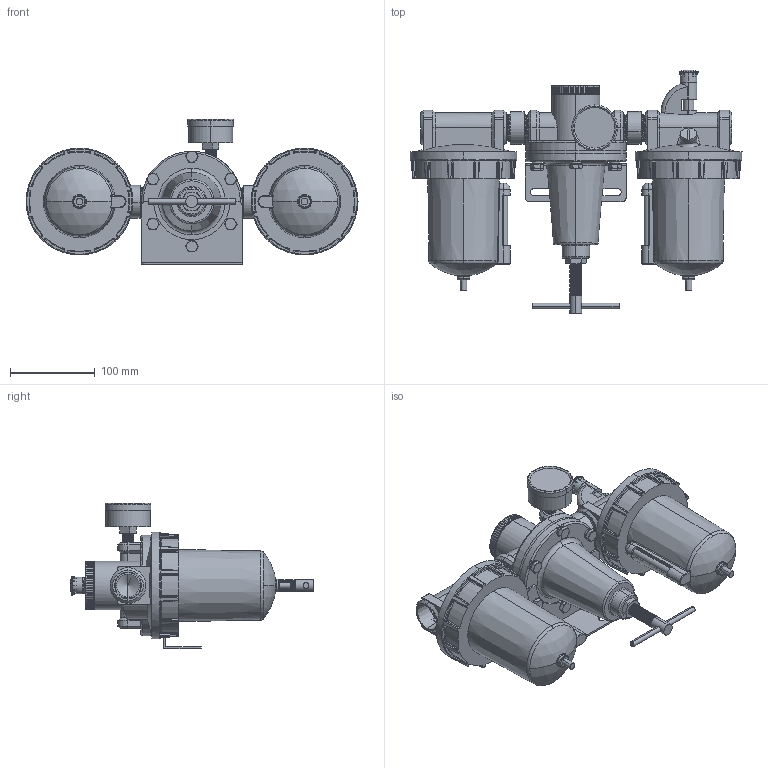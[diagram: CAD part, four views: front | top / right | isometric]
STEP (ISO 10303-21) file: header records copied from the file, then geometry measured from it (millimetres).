
FILE_DESCRIPTION (( 'STEP AP203' ), '1' );
FILE_NAME ('C628W-08#YB#.STEP', '2016-02-16T05:13:00', ( 'Toshiba' ), ( 'Toshiba' ), 'SwSTEP 2.0', 'SolidWorks 2014', '' );
FILE_SCHEMA (( 'CONFIG_CONTROL_DESIGN' ));
Length unit declared in the file: millimetre
Products named in the file (25): R119-06-2; F602W-08; L606-W-06-4; ISO 4014 - M8; L606-W-06-2; L606-W-08; R119-08; 50-P-AD=1-4PT-2; L606-W-06-3; 50-P-AD=1-4PT.SLDPRT; R119-06-1; R119-06-5; KW18B57; F602W-08#YB#; C628W-08#YB#; 50-P-AD=1-4PT-1; R119-06-7; L606-W-06-5; R119-08-3; L606W-08; R119-06-6; L606-W-06-1; R119-06-4
Assembly tree (33 placements, depth 4):
  C628W-08#YB#
    F602W-08#YB#
      F602W-08
      L606-W-06-2
      L606-W-06-5
    R119-08
      R119-06-1
      R119-06-2
      R119-08-3
      R119-06-4
      R119-06-5
      R119-06-6
      ISO 4014 - M8  x6
      R119-06-7
      50-P-AD=1-4PT.SLDPRT
        50-P-AD=1-4PT-1
        50-P-AD=1-4PT-2
      KW18B57
    L606W-08
      L606-W-08
      L606-W-06-1
      L606-W-06-2
      L606-W-06-5
      L606-W-06-4
      L606-W-06-3  x2
      (unnamed)
    (unnamed)  x2
Bounding box: 391.5 x 287 x 171.5 mm (x, y, z)
Volume: 3246816.6 mm3; surface area: 397838.4 mm2
Topology: 30 solids, 30 shells, 1710 faces, 4179 edges, 2483 vertices
Faces by surface type: plane 541, cylinder 413, cone 352, bspline 242, torus 104, sphere 58
Entity records: 68453 total; most frequent: CARTESIAN_POINT 33583, ORIENTED_EDGE 7206, DIRECTION 6198, EDGE_CURVE 3603, AXIS2_PLACEMENT_3D 2564, VERTEX_POINT 2183, EDGE_LOOP 1538, ADVANCED_FACE 1487
